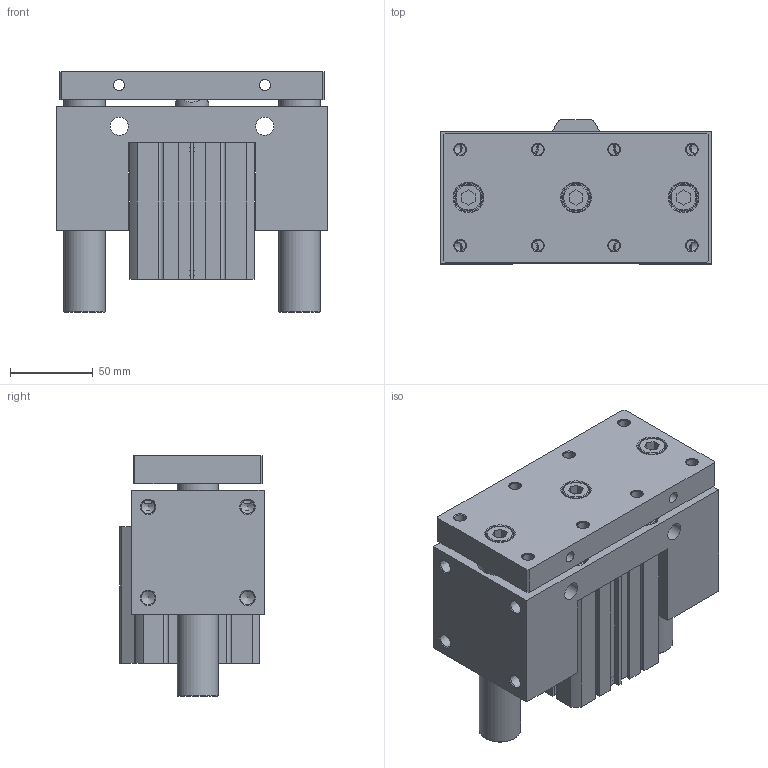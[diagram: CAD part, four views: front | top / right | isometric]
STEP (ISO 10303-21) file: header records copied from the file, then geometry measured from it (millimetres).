
FILE_DESCRIPTION((''),'2;1');
FILE_NAME('I:\3D電子目錄\氣缸\JCB\JCB\JCB63\JCB63x50.stp','2007-09-01T15:18:21',('Administrator'),(''),'Autodesk Inventor 11','Autodesk Inventor 11','');
FILE_SCHEMA(('AUTOMOTIVE_DESIGN { 1 0 10303 214 1 1 1 1 }'));
Length unit declared in the file: millimetre
Products named in the file (1): JCB63
Bounding box: 164 x 87 x 145.5 mm (x, y, z)
Volume: 1293821.9 mm3; surface area: 203857.1 mm2
Topology: 3 solids, 5 shells, 343 faces, 829 edges, 538 vertices
Faces by surface type: plane 186, cylinder 62, cone 47, bspline 40, torus 8
Full cylindrical faces by diameter (mm): 3 x2, 6.8 x4, 8.376 x4, 11 x8, 13 x4, 14 x4, 16 x3, 17.5 x3, 20 x1, 21 x1, 25 x2, 28 x2, 40 x1, 47 x1, 65 x4, 68 x2
Entity records: 10008 total; most frequent: CARTESIAN_POINT 2670, DIRECTION 1474, ORIENTED_EDGE 1320, EDGE_CURVE 660, EDGE_LOOP 554, AXIS2_PLACEMENT_3D 532, VERTEX_POINT 498, VECTOR 410
